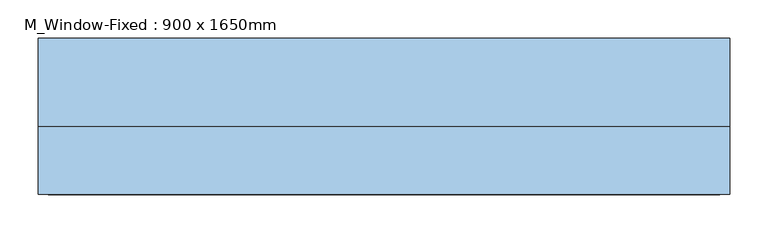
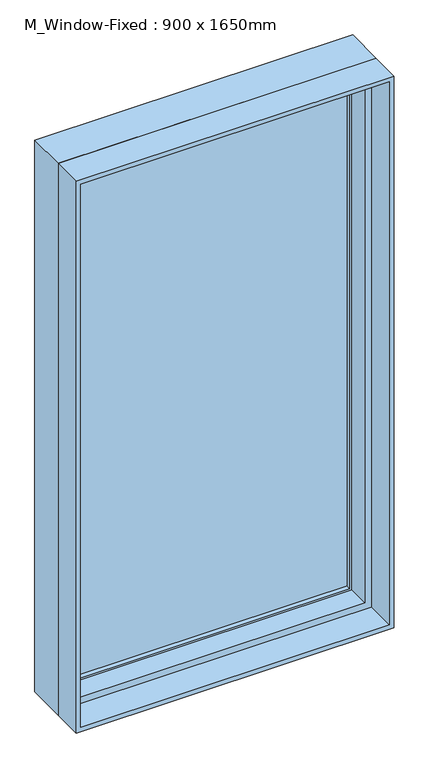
"""IFC4 building model written with IfcOpenShell, lengths in millimetres: window geometry, M_Window-Fixed : 900 x 1650mm."""

from ifc_helpers import new_model, si_unit, frame, origin, place, context, project, spatial, polyline, outline, extrude, faceted_brep, source, transform, mapped, element, save


def m_window_fixed_900_x_1650mm_c6421b1e(model_context):
    return source(origin(), model_context, "Body", "SolidModel", [
        faceted_brep([(450.0, -3.25, 2550.0), (450.0, 111.05, 2550.0), (-450.0, 111.05, 2550.0), (-450.0, -3.25, 2550.0), (-450.0, 111.05, 900.0), (-450.0, -3.25, 900.0), (450.0, 111.05, 900.0), (450.0, -3.25, 900.0), (418.25, -3.25, 2518.25), (418.25, -3.25, 931.75), (-418.25, -3.25, 931.75), (-418.25, -3.25, 2518.25), (-437.3, 111.05, 2537.3), (-437.3, 111.05, 912.7), (437.3, 111.05, 912.7), (437.3, 111.05, 2537.3), (418.25, 60.25, 2518.25), (-418.25, 60.25, 2518.25), (437.3, 60.25, 2537.3), (-437.3, 60.25, 2537.3), (-418.25, 60.25, 931.75), (-437.3, 60.25, 912.7), (418.25, 60.25, 931.75), (437.3, 60.25, 912.7)], [[[0, 1, 2, 3]], [[3, 2, 4, 5]], [[5, 4, 6, 7]], [[3, 5, 7, 0], [8, 9, 10, 11]], [[7, 6, 1, 0]], [[1, 6, 4, 2], [12, 13, 14, 15]], [[16, 8, 11, 17]], [[15, 18, 19, 12]], [[17, 11, 10, 20]], [[12, 19, 21, 13]], [[20, 10, 9, 22]], [[13, 21, 23, 14]], [[22, 9, 8, 16]], [[18, 23, 21, 19], [17, 20, 22, 16]], [[14, 23, 18, 15]]]),
        extrude(outline(polyline([(2550.0, -450.0), (900.0, -450.0), (900.0, 450.0), (2550.0, 450.0), (2550.0, -450.0)]), holes=[polyline([(2537.3, 437.3), (912.7, 437.3), (912.7, -437.3), (2537.3, -437.3), (2537.3, 437.3)])]), frame((0.0, -92.0, 0.0), z_axis=(0.0, 1.0, 0.0), x_axis=(0.0, 0.0, 1.0)), (0.0, 0.0, 1.0), 88.75),
        extrude(outline(polyline([(912.7, 437.3), (2537.3, 437.3), (2537.3, -437.3), (912.7, -437.3), (912.7, 437.3)]), holes=[polyline([(938.1, -411.9), (2511.9, -411.9), (2511.9, 411.9), (938.1, 411.9), (938.1, -411.9)])]), frame((0.0, 60.25, 0.0), z_axis=(0.0, 1.0, 0.0), x_axis=(0.0, 0.0, 1.0)), (0.0, 0.0, 1.0), 44.45),
        extrude(outline(polyline([(411.9, 92.0), (411.9, 85.65), (-411.9, 85.65), (-411.9, 92.0), (411.9, 92.0)])), frame((0.0, 0.0, 938.1), z_axis=(0.0, 0.0, 1.0), x_axis=(1.0, 0.0, 0.0)), (0.0, 0.0, 1.0), 1573.8),
        extrude(outline(polyline([(-411.9, 72.95), (-411.9, 79.3), (411.9, 79.3), (411.9, 72.95), (-411.9, 72.95)])), frame((0.0, 0.0, 938.1), z_axis=(0.0, 0.0, 1.0), x_axis=(1.0, 0.0, 0.0)), (0.0, 0.0, 1.0), 1573.8),
    ])


if __name__ == "__main__":
    model = new_model("IFC4")
    model_context = context("Model", 3, world=origin())
    ifc_project = project(units=[si_unit("LENGTHUNIT", "METRE", prefix="MILLI")], contexts=[model_context])
    site = spatial("IfcSite", under=ifc_project)
    building = spatial("IfcBuilding", under=site)
    placement = place(None, origin())
    m_window_fixed_900_x_1650mm_shape = m_window_fixed_900_x_1650mm_c6421b1e(model_context)
    element("IfcWindow", 1, ObjectType="M_Window-Fixed : 900 x 1650mm", at=placement, inside=building, context=model_context, shape_type="MappedRepresentation", body=[
        mapped(m_window_fixed_900_x_1650mm_shape, transform((0.0, 0.0, 0.0), x_axis=(1.0, 0.0, 0.0), y_axis=(0.0, 1.0, 0.0), z_axis=(0.0, 0.0, 1.0))),
    ])
    save(model, "model.ifc")
